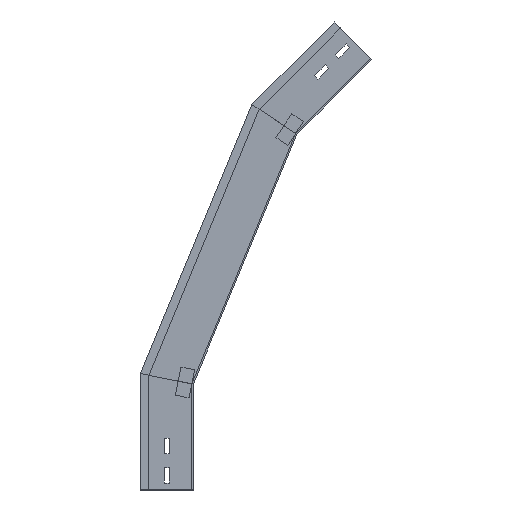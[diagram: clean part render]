
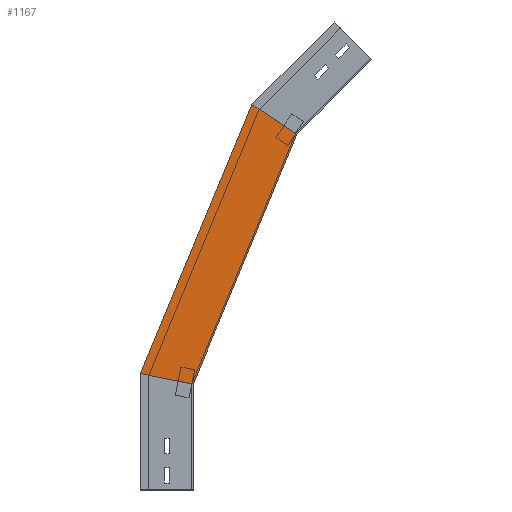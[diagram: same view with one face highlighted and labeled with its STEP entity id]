
A CAD part, left-side view. The second image highlights one B-rep face of the part: STEP entity #1167.
In plain terms, the highlighted planar face has unit normal (-1, 0, 0) as drawn and (1, 0, 0) by its records, which use the part's own axes.
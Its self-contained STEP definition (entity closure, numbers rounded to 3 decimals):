
#56 = ORIENTED_EDGE ( 'NONE', *, *, #859, .F. ) ;
#211 = LINE ( 'NONE', #1473, #279 ) ;
#258 = ORIENTED_EDGE ( 'NONE', *, *, #909, .T. ) ;
#261 = DIRECTION ( 'NONE',  ( 1., 0., 0. ) ) ;
#279 = VECTOR ( 'NONE', #1156, 1000. ) ;
#305 = DIRECTION ( 'NONE',  ( 0., 0., -1. ) ) ;
#391 = EDGE_CURVE ( 'NONE', #1181, #752, #787, .T. ) ;
#406 = VECTOR ( 'NONE', #460, 1000. ) ;
#453 = CARTESIAN_POINT ( 'NONE',  ( 0., 6.318, 134.746 ) ) ;
#460 = DIRECTION ( 'NONE',  ( 0., -0.981, -0.195 ) ) ;
#501 = CARTESIAN_POINT ( 'NONE',  ( 0., -146.568, 503.846 ) ) ;
#526 = VERTEX_POINT ( 'NONE', #501 ) ;
#531 = VECTOR ( 'NONE', #1002, 1000. ) ;
#570 = LINE ( 'NONE', #773, #531 ) ;
#573 = PLANE ( 'NONE',  #953 ) ;
#580 = CARTESIAN_POINT ( 'NONE',  ( 0., -28.701, 144.291 ) ) ;
#599 = ORIENTED_EDGE ( 'NONE', *, *, #391, .F. ) ;
#670 = CARTESIAN_POINT ( 'NONE',  ( 0., 0., 150. ) ) ;
#752 = VERTEX_POINT ( 'NONE', #670 ) ;
#773 = CARTESIAN_POINT ( 'NONE',  ( 0., -211.373, 460.544 ) ) ;
#787 = LINE ( 'NONE', #580, #406 ) ;
#811 = VERTEX_POINT ( 'NONE', #1488 ) ;
#836 = ORIENTED_EDGE ( 'NONE', *, *, #1276, .T. ) ;
#859 = EDGE_CURVE ( 'NONE', #752, #526, #1131, .T. ) ;
#878 = EDGE_LOOP ( 'NONE', ( #836, #258, #56, #599 ) ) ;
#909 = EDGE_CURVE ( 'NONE', #811, #526, #570, .T. ) ;
#953 = AXIS2_PLACEMENT_3D ( 'NONE', #1337, #261, #305 ) ;
#1002 = DIRECTION ( 'NONE',  ( 0., -0.831, -0.556 ) ) ;
#1044 = VECTOR ( 'NONE', #1138, 1000. ) ;
#1088 = FACE_OUTER_BOUND ( 'NONE', #878, .T. ) ;
#1131 = LINE ( 'NONE', #453, #1044 ) ;
#1138 = DIRECTION ( 'NONE',  ( 0., -0.383, 0.924 ) ) ;
#1156 = DIRECTION ( 'NONE',  ( 0., -0.383, 0.924 ) ) ;
#1167 = ADVANCED_FACE ( 'NONE', ( #1088 ), #573, .T. ) ;
#1181 = VERTEX_POINT ( 'NONE', #1468 ) ;
#1276 = EDGE_CURVE ( 'NONE', #1181, #811, #211, .T. ) ;
#1337 = CARTESIAN_POINT ( 'NONE',  ( 0., 6.318, 134.746 ) ) ;
#1468 = CARTESIAN_POINT ( 'NONE',  ( 0., 75., 164.918 ) ) ;
#1473 = CARTESIAN_POINT ( 'NONE',  ( 0., 75.609, 163.448 ) ) ;
#1488 = CARTESIAN_POINT ( 'NONE',  ( 0., -82.986, 546.33 ) ) ;
